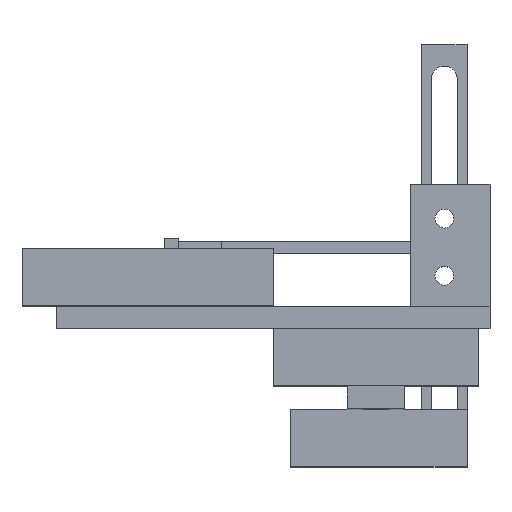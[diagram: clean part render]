
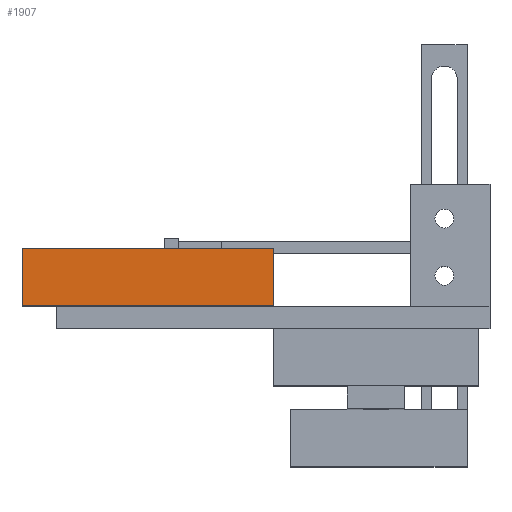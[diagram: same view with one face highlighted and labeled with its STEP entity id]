
A CAD part, top view. The second image highlights one B-rep face of the part: STEP entity #1907.
In plain terms, the highlighted planar face has unit normal (0, 0, 1).
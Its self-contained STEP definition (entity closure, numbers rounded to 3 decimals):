
#62 = VERTEX_POINT('',#63);
#63 = CARTESIAN_POINT('',(-22.,0.,136.));
#70 = PLANE('',#71);
#71 = AXIS2_PLACEMENT_3D('',#72,#73,#74);
#72 = CARTESIAN_POINT('',(-22.,-10.,104.));
#73 = DIRECTION('',(1.,0.,0.));
#74 = DIRECTION('',(0.,0.,1.));
#82 = PLANE('',#83);
#83 = AXIS2_PLACEMENT_3D('',#84,#85,#86);
#84 = CARTESIAN_POINT('',(-22.,0.,104.));
#85 = DIRECTION('',(0.,1.,0.));
#86 = DIRECTION('',(0.,0.,1.));
#94 = EDGE_CURVE('',#95,#62,#97,.T.);
#95 = VERTEX_POINT('',#96);
#96 = CARTESIAN_POINT('',(-22.,-10.,136.));
#97 = SURFACE_CURVE('',#98,(#102,#109),.PCURVE_S1.);
#98 = LINE('',#99,#100);
#99 = CARTESIAN_POINT('',(-22.,-10.,136.));
#100 = VECTOR('',#101,1.);
#101 = DIRECTION('',(0.,1.,0.));
#102 = PCURVE('',#70,#103);
#103 = DEFINITIONAL_REPRESENTATION('',(#104),#108);
#104 = LINE('',#105,#106);
#105 = CARTESIAN_POINT('',(32.,0.));
#106 = VECTOR('',#107,1.);
#107 = DIRECTION('',(0.,-1.));
#108 = ( GEOMETRIC_REPRESENTATION_CONTEXT(2)
PARAMETRIC_REPRESENTATION_CONTEXT() REPRESENTATION_CONTEXT('2D SPACE',''
  ) );
#109 = PCURVE('',#110,#115);
#110 = PLANE('',#111);
#111 = AXIS2_PLACEMENT_3D('',#112,#113,#114);
#112 = CARTESIAN_POINT('',(-22.,-10.,136.));
#113 = DIRECTION('',(0.,0.,1.));
#114 = DIRECTION('',(1.,0.,0.));
#115 = DEFINITIONAL_REPRESENTATION('',(#116),#120);
#116 = LINE('',#117,#118);
#117 = CARTESIAN_POINT('',(0.,0.));
#118 = VECTOR('',#119,1.);
#119 = DIRECTION('',(0.,1.));
#120 = ( GEOMETRIC_REPRESENTATION_CONTEXT(2)
PARAMETRIC_REPRESENTATION_CONTEXT() REPRESENTATION_CONTEXT('2D SPACE',''
  ) );
#138 = PLANE('',#139);
#139 = AXIS2_PLACEMENT_3D('',#140,#141,#142);
#140 = CARTESIAN_POINT('',(-22.,-10.,104.));
#141 = DIRECTION('',(0.,1.,0.));
#142 = DIRECTION('',(0.,0.,1.));
#411 = PLANE('',#412);
#412 = AXIS2_PLACEMENT_3D('',#413,#414,#415);
#413 = CARTESIAN_POINT('',(22.,-10.,104.));
#414 = DIRECTION('',(1.,0.,0.));
#415 = DIRECTION('',(0.,0.,1.));
#591 = EDGE_CURVE('',#62,#592,#594,.T.);
#592 = VERTEX_POINT('',#593);
#593 = CARTESIAN_POINT('',(22.,0.,136.));
#594 = SURFACE_CURVE('',#595,(#599,#606),.PCURVE_S1.);
#595 = LINE('',#596,#597);
#596 = CARTESIAN_POINT('',(-22.,0.,136.));
#597 = VECTOR('',#598,1.);
#598 = DIRECTION('',(1.,0.,0.));
#599 = PCURVE('',#82,#600);
#600 = DEFINITIONAL_REPRESENTATION('',(#601),#605);
#601 = LINE('',#602,#603);
#602 = CARTESIAN_POINT('',(32.,0.));
#603 = VECTOR('',#604,1.);
#604 = DIRECTION('',(0.,1.));
#605 = ( GEOMETRIC_REPRESENTATION_CONTEXT(2)
PARAMETRIC_REPRESENTATION_CONTEXT() REPRESENTATION_CONTEXT('2D SPACE',''
  ) );
#606 = PCURVE('',#110,#607);
#607 = DEFINITIONAL_REPRESENTATION('',(#608),#612);
#608 = LINE('',#609,#610);
#609 = CARTESIAN_POINT('',(0.,10.));
#610 = VECTOR('',#611,1.);
#611 = DIRECTION('',(1.,0.));
#612 = ( GEOMETRIC_REPRESENTATION_CONTEXT(2)
PARAMETRIC_REPRESENTATION_CONTEXT() REPRESENTATION_CONTEXT('2D SPACE',''
  ) );
#1406 = EDGE_CURVE('',#95,#1407,#1409,.T.);
#1407 = VERTEX_POINT('',#1408);
#1408 = CARTESIAN_POINT('',(22.,-10.,136.));
#1409 = SURFACE_CURVE('',#1410,(#1414,#1421),.PCURVE_S1.);
#1410 = LINE('',#1411,#1412);
#1411 = CARTESIAN_POINT('',(-22.,-10.,136.));
#1412 = VECTOR('',#1413,1.);
#1413 = DIRECTION('',(1.,0.,0.));
#1414 = PCURVE('',#138,#1415);
#1415 = DEFINITIONAL_REPRESENTATION('',(#1416),#1420);
#1416 = LINE('',#1417,#1418);
#1417 = CARTESIAN_POINT('',(32.,0.));
#1418 = VECTOR('',#1419,1.);
#1419 = DIRECTION('',(0.,1.));
#1420 = ( GEOMETRIC_REPRESENTATION_CONTEXT(2)
PARAMETRIC_REPRESENTATION_CONTEXT() REPRESENTATION_CONTEXT('2D SPACE',''
  ) );
#1421 = PCURVE('',#110,#1422);
#1422 = DEFINITIONAL_REPRESENTATION('',(#1423),#1427);
#1423 = LINE('',#1424,#1425);
#1424 = CARTESIAN_POINT('',(0.,0.));
#1425 = VECTOR('',#1426,1.);
#1426 = DIRECTION('',(1.,0.));
#1427 = ( GEOMETRIC_REPRESENTATION_CONTEXT(2)
PARAMETRIC_REPRESENTATION_CONTEXT() REPRESENTATION_CONTEXT('2D SPACE',''
  ) );
#1907 = ADVANCED_FACE('',(#1908),#110,.T.);
#1908 = FACE_BOUND('',#1909,.T.);
#1909 = EDGE_LOOP('',(#1910,#1911,#1912,#1933));
#1910 = ORIENTED_EDGE('',*,*,#94,.F.);
#1911 = ORIENTED_EDGE('',*,*,#1406,.T.);
#1912 = ORIENTED_EDGE('',*,*,#1913,.T.);
#1913 = EDGE_CURVE('',#1407,#592,#1914,.T.);
#1914 = SURFACE_CURVE('',#1915,(#1919,#1926),.PCURVE_S1.);
#1915 = LINE('',#1916,#1917);
#1916 = CARTESIAN_POINT('',(22.,-10.,136.));
#1917 = VECTOR('',#1918,1.);
#1918 = DIRECTION('',(0.,1.,0.));
#1919 = PCURVE('',#110,#1920);
#1920 = DEFINITIONAL_REPRESENTATION('',(#1921),#1925);
#1921 = LINE('',#1922,#1923);
#1922 = CARTESIAN_POINT('',(44.,0.));
#1923 = VECTOR('',#1924,1.);
#1924 = DIRECTION('',(0.,1.));
#1925 = ( GEOMETRIC_REPRESENTATION_CONTEXT(2)
PARAMETRIC_REPRESENTATION_CONTEXT() REPRESENTATION_CONTEXT('2D SPACE',''
  ) );
#1926 = PCURVE('',#411,#1927);
#1927 = DEFINITIONAL_REPRESENTATION('',(#1928),#1932);
#1928 = LINE('',#1929,#1930);
#1929 = CARTESIAN_POINT('',(32.,0.));
#1930 = VECTOR('',#1931,1.);
#1931 = DIRECTION('',(0.,-1.));
#1932 = ( GEOMETRIC_REPRESENTATION_CONTEXT(2)
PARAMETRIC_REPRESENTATION_CONTEXT() REPRESENTATION_CONTEXT('2D SPACE',''
  ) );
#1933 = ORIENTED_EDGE('',*,*,#591,.F.);
